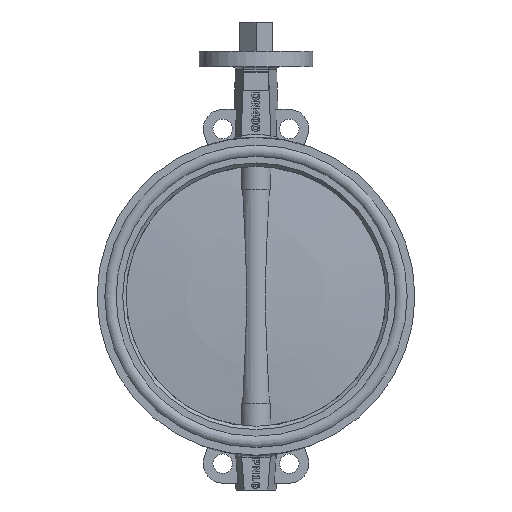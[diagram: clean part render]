
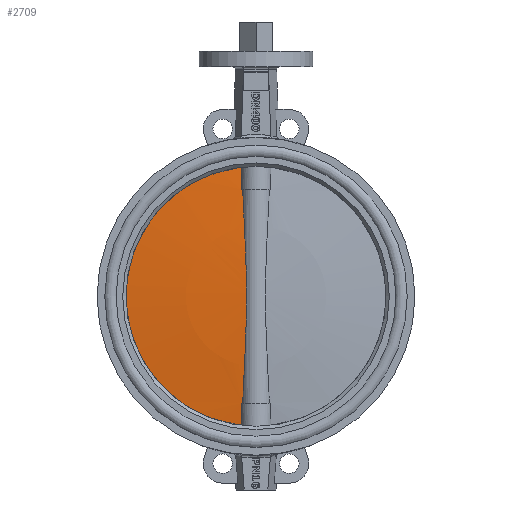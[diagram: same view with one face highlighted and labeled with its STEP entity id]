
A CAD part, left-side view. The second image highlights one B-rep face of the part: STEP entity #2709.
In plain terms, the highlighted spherical face has radius 1910.01 mm.
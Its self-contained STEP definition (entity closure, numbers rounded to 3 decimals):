
#2709=ADVANCED_FACE('',(#6140),#6142,.T.);
#6140=FACE_BOUND('',#6141,.T.);
#6141=EDGE_LOOP('',(#8730,#8731,#8732,#8733,#8734,#8735));
#6142=SPHERICAL_SURFACE('',#6143,1910.012);
#6143=AXIS2_PLACEMENT_3D('',#6144,#6145,#6146);
#6144=CARTESIAN_POINT('',(0.,-1892.012,0.));
#6145=DIRECTION('',(0.,-1.,0.));
#6146=DIRECTION('',(0.,0.,1.));
#8730=ORIENTED_EDGE('',*,*,#9757,.F.);
#8731=ORIENTED_EDGE('',*,*,#9769,.F.);
#8732=ORIENTED_EDGE('',*,*,#9770,.T.);
#8733=ORIENTED_EDGE('',*,*,#9771,.F.);
#8734=ORIENTED_EDGE('',*,*,#9740,.F.);
#8735=ORIENTED_EDGE('',*,*,#9768,.T.);
#9740=EDGE_CURVE('',#11431,#11432,#11433,.F.);
#9757=EDGE_CURVE('',#11464,#11449,#11466,.T.);
#9768=EDGE_CURVE('',#11431,#11449,#11481,.T.);
#9769=EDGE_CURVE('',#11482,#11464,#11483,.T.);
#9770=EDGE_CURVE('',#11482,#11484,#11485,.T.);
#9771=EDGE_CURVE('',#11432,#11484,#11486,.F.);
#11431=VERTEX_POINT('',#17421);
#11432=VERTEX_POINT('',#17422);
#11433=B_SPLINE_CURVE_WITH_KNOTS('',3,
(#17423,#17424,#17425,#17426,#17427,#17428,#17429),
.UNSPECIFIED.,.F.,.F.,
(4,1,1,1,4),
(0.,0.238,0.478,0.733,1.),
.UNSPECIFIED.);
#11449=VERTEX_POINT('',#17553);
#11464=VERTEX_POINT('',#17673);
#11466=B_SPLINE_CURVE_WITH_KNOTS('',3,
(#17678,#17679,#17680,#17681,#17682,#17683,#17684),
.UNSPECIFIED.,.F.,.F.,
(4,1,1,1,4),
(0.,0.238,0.478,0.733,1.),
.UNSPECIFIED.);
#11481=CIRCLE('',#17797,200.);
#11482=VERTEX_POINT('',#17801);
#11483=CIRCLE('',#17802,1902.932);
#11484=VERTEX_POINT('',#17806);
#11485=B_SPLINE_CURVE_WITH_KNOTS('',3,
(#17807,#17808,#17809,#17810,#17811,#17812,#17813,#17814,#17815,#17816,#17817,#17818,
#17819,#17820,#17821,#17822,#17823,#17824,#17825,#17826,#17827,#17828,#17829,#17830,
#17831,#17832,#17833,#17834,#17835,#17836,#17837,#17838,#17839,#17840,#17841,#17842,
#17843,#17844),
.UNSPECIFIED.,.F.,.F.,
(4,1,1,1,1,1,1,1,1,1,1,1,1,1,1,1,1,1,1,1,1,1,1,1,1,1,1,1,1,1,1,1,1,1,1,4),
(0.,0.036,0.071,0.106,0.141,0.175,
0.208,0.24,0.272,0.303,0.333,
0.362,0.389,0.416,0.441,0.465,
0.495,0.5,0.524,0.552,0.572,
0.592,0.623,0.665,0.709,0.745,
0.778,0.81,0.839,0.861,0.884,
0.907,0.93,0.953,0.977,1.),
.UNSPECIFIED.);
#11486=CIRCLE('',#17845,1902.932);
#17421=CARTESIAN_POINT('',(23.035,7.5,198.669));
#17422=CARTESIAN_POINT('',(21.686,10.797,164.3));
#17423=CARTESIAN_POINT('',(21.686,10.797,164.3));
#17424=CARTESIAN_POINT('',(21.804,10.56,167.024));
#17425=CARTESIAN_POINT('',(22.037,10.072,172.504));
#17426=CARTESIAN_POINT('',(22.379,9.289,180.902));
#17427=CARTESIAN_POINT('',(22.716,8.434,189.636));
#17428=CARTESIAN_POINT('',(22.93,7.821,195.612));
#17429=CARTESIAN_POINT('',(23.035,7.5,198.669));
#17553=CARTESIAN_POINT('',(23.035,7.5,-198.669));
#17673=CARTESIAN_POINT('',(21.686,10.797,-164.3));
#17678=CARTESIAN_POINT('',(21.686,10.797,-164.3));
#17679=CARTESIAN_POINT('',(21.804,10.56,-167.024));
#17680=CARTESIAN_POINT('',(22.037,10.072,-172.504));
#17681=CARTESIAN_POINT('',(22.379,9.289,-180.902));
#17682=CARTESIAN_POINT('',(22.716,8.434,-189.636));
#17683=CARTESIAN_POINT('',(22.93,7.821,-195.612));
#17684=CARTESIAN_POINT('',(23.035,7.5,-198.669));
#17797=AXIS2_PLACEMENT_3D('',#17798,#17799,#17800);
#17798=CARTESIAN_POINT('',(0.,7.5,0.));
#17799=DIRECTION('',(0.,1.,0.));
#17800=DIRECTION('',(0.115,0.,0.993));
#17801=CARTESIAN_POINT('',(20.507,10.81,-164.3));
#17802=AXIS2_PLACEMENT_3D('',#17803,#17804,#17805);
#17803=CARTESIAN_POINT('',(0.,-1892.012,-164.3));
#17804=DIRECTION('',(0.,0.,-1.));
#17805=DIRECTION('',(0.011,1.,0.));
#17806=CARTESIAN_POINT('',(20.507,10.81,164.3));
#17807=CARTESIAN_POINT('',(20.507,10.81,-164.3));
#17808=CARTESIAN_POINT('',(20.328,11.149,-160.394));
#17809=CARTESIAN_POINT('',(19.964,11.8,-152.615));
#17810=CARTESIAN_POINT('',(19.401,12.702,-140.996));
#17811=CARTESIAN_POINT('',(18.838,13.522,-129.517));
#17812=CARTESIAN_POINT('',(18.281,14.264,-118.179));
#17813=CARTESIAN_POINT('',(17.744,14.926,-107.053));
#17814=CARTESIAN_POINT('',(17.233,15.511,-96.138));
#17815=CARTESIAN_POINT('',(16.759,16.021,-85.507));
#17816=CARTESIAN_POINT('',(16.324,16.463,-75.088));
#17817=CARTESIAN_POINT('',(15.937,16.838,-64.951));
#17818=CARTESIAN_POINT('',(15.6,17.15,-55.097));
#17819=CARTESIAN_POINT('',(15.319,17.4,-45.668));
#17820=CARTESIAN_POINT('',(15.092,17.597,-36.593));
#17821=CARTESIAN_POINT('',(14.919,17.744,-27.943));
#17822=CARTESIAN_POINT('',(14.794,17.847,-19.647));
#17823=CARTESIAN_POINT('',(14.708,17.919,-10.97));
#17824=CARTESIAN_POINT('',(14.679,17.942,-4.456));
#17825=CARTESIAN_POINT('',(14.676,17.945,2.049));
#17826=CARTESIAN_POINT('',(14.692,17.932,8.363));
#17827=CARTESIAN_POINT('',(14.756,17.879,16.313));
#17828=CARTESIAN_POINT('',(14.854,17.797,23.827));
#17829=CARTESIAN_POINT('',(14.987,17.686,31.572));
#17830=CARTESIAN_POINT('',(15.209,17.497,41.681));
#17831=CARTESIAN_POINT('',(15.571,17.177,54.466));
#17832=CARTESIAN_POINT('',(16.04,16.741,67.888));
#17833=CARTESIAN_POINT('',(16.539,16.249,80.353));
#17834=CARTESIAN_POINT('',(17.017,15.747,91.373));
#17835=CARTESIAN_POINT('',(17.488,15.223,101.635));
#17836=CARTESIAN_POINT('',(17.921,14.71,110.729));
#17837=CARTESIAN_POINT('',(18.316,14.214,118.878));
#17838=CARTESIAN_POINT('',(18.68,13.732,126.314));
#17839=CARTESIAN_POINT('',(19.049,13.217,133.813));
#17840=CARTESIAN_POINT('',(19.419,12.667,141.377));
#17841=CARTESIAN_POINT('',(19.788,12.083,148.983));
#17842=CARTESIAN_POINT('',(20.152,11.465,156.632));
#17843=CARTESIAN_POINT('',(20.39,11.032,161.741));
#17844=CARTESIAN_POINT('',(20.507,10.81,164.3));
#17845=AXIS2_PLACEMENT_3D('',#17846,#17847,#17848);
#17846=CARTESIAN_POINT('',(0.,-1892.012,164.3));
#17847=DIRECTION('',(0.,0.,-1.));
#17848=DIRECTION('',(0.011,1.,0.));
